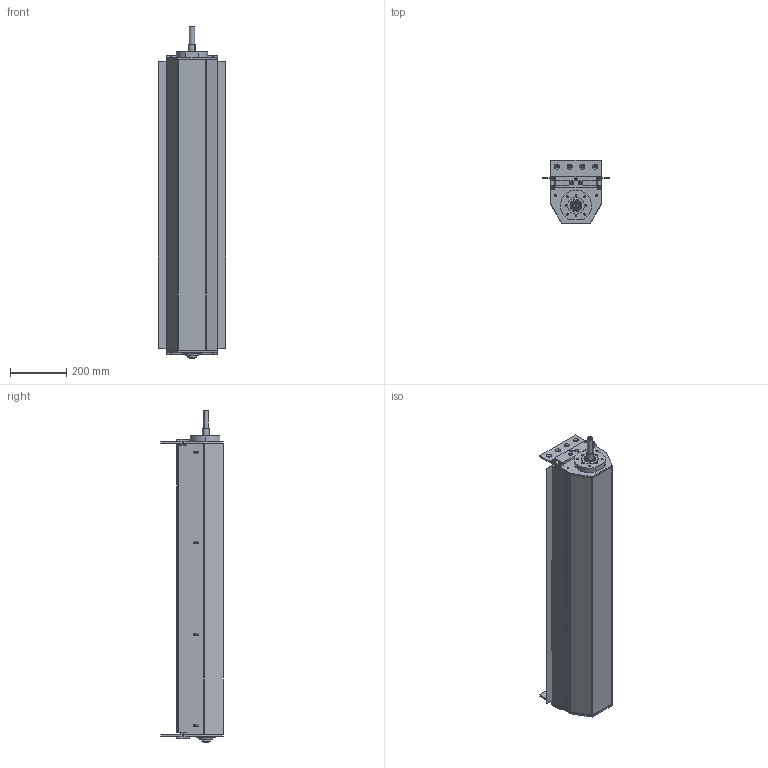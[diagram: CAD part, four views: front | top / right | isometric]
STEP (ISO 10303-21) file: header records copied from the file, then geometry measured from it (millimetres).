
FILE_DESCRIPTION (( 'STEP AP203' ), '1' );
FILE_NAME ('084.050.KCS.44.1000.STEP', '2019-07-30T07:58:43', ( '' ), ( '' ), 'SwSTEP 2.0', 'SolidWorks 2018', '' );
FILE_SCHEMA (( 'CONFIG_CONTROL_DESIGN' ));
Length unit declared in the file: millimetre
Products named in the file (17): 084.802.003; 084.812.003; 084.814.002-1; CUSCINETTI A SFERE_6004-2RS; 084.810.003; Parte2^084.050.KCS.44.1000_Default<Lavorato>; 084.817.103; 084.802.021; 084.817.105; 084.817.104; 084.802.020; 084.050.KCS.44.1000; 084.817.106; 084.802.004-1; 084.802.010; 084.816.116_084.816.107<A macchina>; 084.802.012_Solo centrale
Assembly tree (35 placements, depth 2):
  084.050.KCS.44.1000
    Parte2^084.050.KCS.44.1000_Default<Lavorato>  x2
    084.817.104  x2
    084.817.105  x4
    084.812.003
    084.814.002-1
    084.816.116_084.816.107<A macchina>
    084.817.103  x2
    084.802.012_Solo centrale  x2
    084.802.021
    084.810.003  x2
    084.802.004-1  x4
    084.802.020
    084.802.003  x2
    CUSCINETTI A SFERE_6004-2RS  x8
    084.817.106
    084.802.010
Bounding box: 240 x 223 x 1176 mm (x, y, z)
Volume: 6576948.1 mm3; surface area: 3807607.7 mm2
Topology: 37 solids, 37 shells, 1330 faces, 3330 edges, 2151 vertices
Faces by surface type: plane 595, cylinder 455, cone 170, torus 100, sphere 10
Entity records: 25259 total; most frequent: DIRECTION 4194, CARTESIAN_POINT 4012, ORIENTED_EDGE 3764, EDGE_CURVE 1882, AXIS2_PLACEMENT_3D 1550, VERTEX_POINT 1220, LINE 1094, VECTOR 1094
